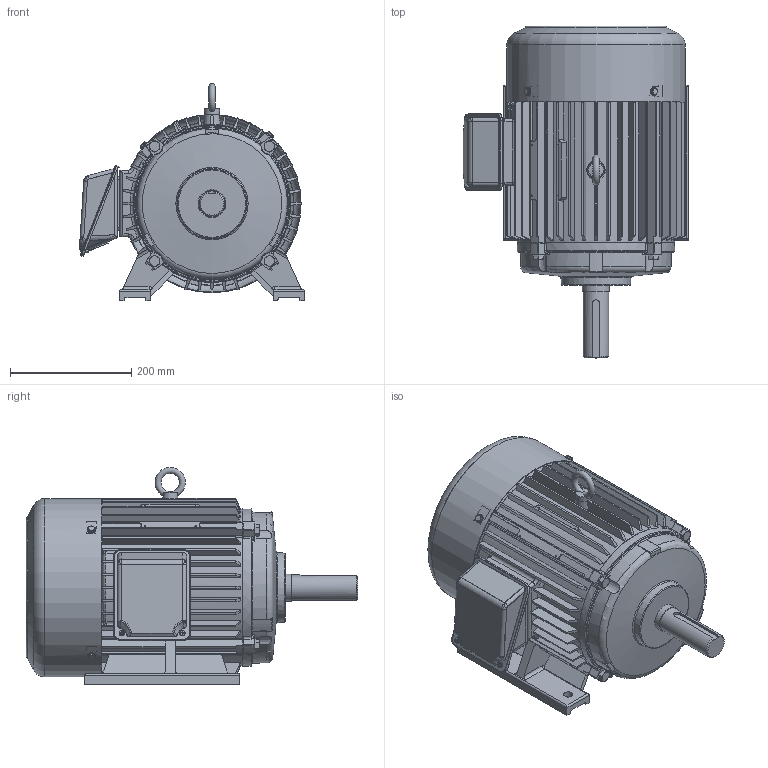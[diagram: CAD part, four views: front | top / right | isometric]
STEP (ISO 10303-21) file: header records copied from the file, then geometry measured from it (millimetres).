
FILE_DESCRIPTION(/* description */ ('Unknown'),/* implementation_level */ '2;1');
FILE_NAME(/* name */ '0-SMA-31984_외형도(248DIA)',/* time_stamp */ '2026-07-24T08:18:16+09:00',/* author */ ('Unknown'),/* organization */ ('Unknown'),/* preprocessor_version */ 'ST-DEVELOPER v16',/* originating_system */ 'DEX',/* authorisation */ $);
FILE_SCHEMA (('AUTOMOTIVE_DESIGN {1 0 10303 214 3 1 1}'));
Length unit declared in the file: millimetre
Products named in the file (19): 0-SMA-31984_¿ÜÇüµµ(248DIxÆÖÄ³(; 2-SMA-30908_FRAME(248DIA); 3-SMA-30909_擅粽塭鰍(248D; 4-SMA-30910-1_菴粽塭鰍(248D; 5-SMA-30911_SHAFT(248DIA); 6-SMA-31245_FAN(248, 260DIA); 7-SMA-30914_FAN COVER(248DIA); ﾀｰｰ｢ｺｼﾆｮ M10x1.5xﾉTﾔ; 幫陝 M6x1x101; 蹴辨 S3; 5.5~15kW(7.5~20HPO)_攪嘐割 夢蝶(205~260; 8-SMA-33050_T-BOX(鼻)(205~260DIA); 9-SMA-33051_T-BOX(ÇÏ)(205~260DIA)ÝõÞ; 褊濠 菅斬 該葬 獐お M5x; T-BOX ÀÓ½Ã ÄÉÀÌºí±×·£µå(205~ë“œ(205~260DIA); T-BOX ｾﾐﾆﾇ(205~260DIA) V; Iｺｼﾆｮ M12x1.75x22ｧ\ﾔ; 6309ZZ; 6308ZZ
Assembly tree (29 placements, depth 3):
  0-SMA-31984_¿ÜÇüµµ(248DIxÆÖÄ³(
    2-SMA-30908_FRAME(248DIA)
    3-SMA-30909_擅粽塭鰍(248D
    4-SMA-30910-1_菴粽塭鰍(248D
    5-SMA-30911_SHAFT(248DIA)
    6-SMA-31245_FAN(248, 260DIA)
    7-SMA-30914_FAN COVER(248DIA)
    ﾀｰｰ｢ｺｼﾆｮ M10x1.5xﾉTﾔ  x8
    幫陝 M6x1x101  x4
    蹴辨 S3
    5.5~15kW(7.5~20HPO)_攪嘐割 夢蝶(205~260
      8-SMA-33050_T-BOX(鼻)(205~260DIA)
      9-SMA-33051_T-BOX(ÇÏ)(205~260DIA)ÝõÞ
      褊濠 菅斬 該葬 獐お M5x  x2
      T-BOX ÀÓ½Ã ÄÉÀÌºí±×·£µå(205~ë“œ(205~260DIA)
    T-BOX ｾﾐﾆﾇ(205~260DIA) V
    Iｺｼﾆｮ M12x1.75x22ｧ\ﾔ
    6309ZZ
    6308ZZ
Bounding box: 371.99 x 547.99 x 358.5 mm (x, y, z)
Volume: 5491767.7 mm3; surface area: 1972714.4 mm2
Topology: 50 solids, 50 shells, 2115 faces, 5487 edges, 3495 vertices
Faces by surface type: plane 723, cylinder 615, cone 434, torus 204, bspline 121, sphere 18
Full cylindrical faces by diameter (mm): 2.2 x4, 2.5 x2, 4.134 x2, 4.917 x2, 5 x2, 6 x10, 6.6 x4, 7 x2, 8 x2, 8.917 x16, 9 x2, 10 x16, 10.106 x1, 12 x10, 14 x4, 15 x4, 25 x1, 35 x4, 39.8 x1, 40 x4, 40.8 x1, 42 x1, 44.8 x1, 45 x2, 45.8 x1, 46.1 x1, 49 x1, 54.286 x2, 54.686 x2, 57 x2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
Entity records: 85649 total; most frequent: CARTESIAN_POINT 35917, ORIENTED_EDGE 9420, DIRECTION 8930, EDGE_CURVE 4710, AXIS2_PLACEMENT_3D 3607, VERTEX_POINT 3131, FACE_BOUND 2299, EDGE_LOOP 2270
